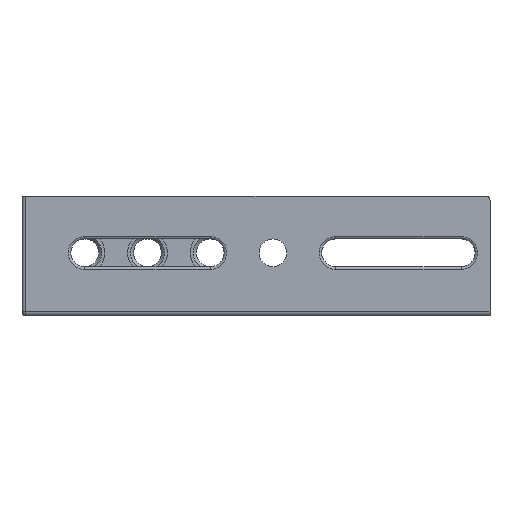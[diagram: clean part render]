
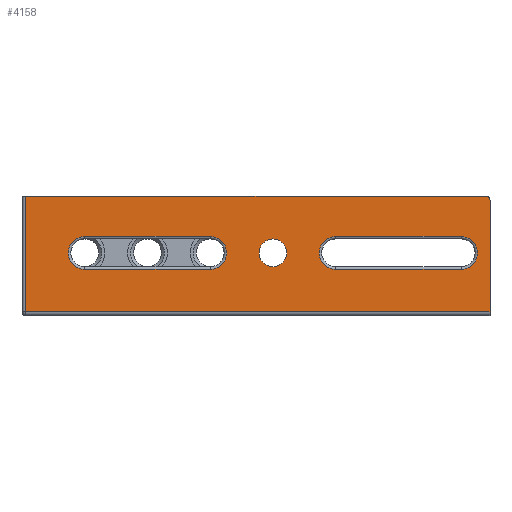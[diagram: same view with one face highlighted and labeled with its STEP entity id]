
A CAD part, front view. The second image highlights one B-rep face of the part: STEP entity #4158.
In plain terms, the highlighted planar face has unit normal (0, -1, 0).
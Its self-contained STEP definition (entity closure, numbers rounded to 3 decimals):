
#172 = CARTESIAN_POINT ( 'NONE',  ( 150., 0., 36.925 ) ) ;
#484 = ORIENTED_EDGE ( 'NONE', *, *, #14863, .F. ) ;
#1697 = EDGE_CURVE ( 'NONE', #34019, #34101, #27652, .T. ) ;
#1947 = DIRECTION ( 'NONE',  ( 0., 0., 1. ) ) ;
#2358 = CARTESIAN_POINT ( 'NONE',  ( 250., 0., 63.075 ) ) ;
#2628 = DIRECTION ( 'NONE',  ( 1., 0., 0. ) ) ;
#2766 = EDGE_CURVE ( 'NONE', #28239, #39608, #25857, .T. ) ;
#3087 = FACE_BOUND ( 'NONE', #32671, .T. ) ;
#3478 = CIRCLE ( 'NONE', #29634, 13.075 ) ;
#3628 = VECTOR ( 'NONE', #16721, 1000. ) ;
#3771 = LINE ( 'NONE', #7646, #41364 ) ;
#3807 = CARTESIAN_POINT ( 'NONE',  ( 50., 0., 36.925 ) ) ;
#4087 = DIRECTION ( 'NONE',  ( -1., 0., 0. ) ) ;
#4158 = ADVANCED_FACE ( 'NONE', ( #34017, #27430, #3087, #10129 ), #9915, .T. ) ;
#4805 = DIRECTION ( 'NONE',  ( 0., 0., 1. ) ) ;
#5215 = VERTEX_POINT ( 'NONE', #14609 ) ;
#5560 = DIRECTION ( 'NONE',  ( 0., -1., 0. ) ) ;
#5613 = CARTESIAN_POINT ( 'NONE',  ( 0., 0., 3. ) ) ;
#6457 = LINE ( 'NONE', #17365, #24985 ) ;
#7090 = EDGE_CURVE ( 'NONE', #5215, #39314, #38074, .T. ) ;
#7293 = AXIS2_PLACEMENT_3D ( 'NONE', #29899, #9633, #1947 ) ;
#7646 = CARTESIAN_POINT ( 'NONE',  ( 250., 0., 63.075 ) ) ;
#9633 = DIRECTION ( 'NONE',  ( 0., -1., 0. ) ) ;
#9775 = DIRECTION ( 'NONE',  ( 0., -1., 0. ) ) ;
#9840 = VERTEX_POINT ( 'NONE', #22751 ) ;
#9915 = PLANE ( 'NONE',  #26684 ) ;
#10129 = FACE_OUTER_BOUND ( 'NONE', #16876, .T. ) ;
#10140 = CARTESIAN_POINT ( 'NONE',  ( 373., 0., 92. ) ) ;
#10672 = CARTESIAN_POINT ( 'NONE',  ( 350., 0., 63.075 ) ) ;
#10962 = VERTEX_POINT ( 'NONE', #10140 ) ;
#11057 = CIRCLE ( 'NONE', #40125, 11.075 ) ;
#11124 = ORIENTED_EDGE ( 'NONE', *, *, #28689, .F. ) ;
#11185 = ORIENTED_EDGE ( 'NONE', *, *, #14229, .F. ) ;
#11362 = EDGE_CURVE ( 'NONE', #39314, #44167, #6457, .T. ) ;
#11737 = DIRECTION ( 'NONE',  ( 1., 0., 0. ) ) ;
#11890 = AXIS2_PLACEMENT_3D ( 'NONE', #36705, #5560, #16003 ) ;
#13086 = EDGE_CURVE ( 'NONE', #34101, #41169, #42877, .T. ) ;
#13460 = AXIS2_PLACEMENT_3D ( 'NONE', #15003, #18868, #42718 ) ;
#13549 = CARTESIAN_POINT ( 'NONE',  ( 3., 0., 95. ) ) ;
#13623 = EDGE_CURVE ( 'NONE', #39644, #5215, #44331, .T. ) ;
#13840 = ORIENTED_EDGE ( 'NONE', *, *, #2766, .F. ) ;
#14229 = EDGE_CURVE ( 'NONE', #31490, #34019, #36759, .T. ) ;
#14609 = CARTESIAN_POINT ( 'NONE',  ( 50., 0., 63.075 ) ) ;
#14647 = EDGE_CURVE ( 'NONE', #39608, #22115, #43576, .T. ) ;
#14779 = CARTESIAN_POINT ( 'NONE',  ( 250., 0., 50. ) ) ;
#14863 = EDGE_CURVE ( 'NONE', #31918, #28239, #3478, .T. ) ;
#14916 = DIRECTION ( 'NONE',  ( 1., 0., 0. ) ) ;
#15003 = CARTESIAN_POINT ( 'NONE',  ( 150., 0., 50. ) ) ;
#15169 = EDGE_CURVE ( 'NONE', #41169, #10962, #33994, .T. ) ;
#15713 = DIRECTION ( 'NONE',  ( -1., 0., 0. ) ) ;
#16003 = DIRECTION ( 'NONE',  ( -1., 0., 0. ) ) ;
#16144 = CARTESIAN_POINT ( 'NONE',  ( 373., 0., 3. ) ) ;
#16376 = ORIENTED_EDGE ( 'NONE', *, *, #20874, .F. ) ;
#16388 = CIRCLE ( 'NONE', #13460, 13.075 ) ;
#16721 = DIRECTION ( 'NONE',  ( -1., 0., 0. ) ) ;
#16876 = EDGE_LOOP ( 'NONE', ( #11185, #11124, #29510, #18590, #41620 ) ) ;
#17032 = DIRECTION ( 'NONE',  ( 0., 0., 1. ) ) ;
#17137 = AXIS2_PLACEMENT_3D ( 'NONE', #22545, #43425, #4805 ) ;
#17233 = EDGE_CURVE ( 'NONE', #22115, #31918, #3771, .T. ) ;
#17365 = CARTESIAN_POINT ( 'NONE',  ( 150., 0., 36.925 ) ) ;
#18590 = ORIENTED_EDGE ( 'NONE', *, *, #13086, .F. ) ;
#18868 = DIRECTION ( 'NONE',  ( 0., -1., 0. ) ) ;
#19215 = ORIENTED_EDGE ( 'NONE', *, *, #17233, .F. ) ;
#19311 = ORIENTED_EDGE ( 'NONE', *, *, #13623, .F. ) ;
#20671 = DIRECTION ( 'NONE',  ( 0., 1., 0. ) ) ;
#20849 = DIRECTION ( 'NONE',  ( 0., 0., -1. ) ) ;
#20874 = EDGE_CURVE ( 'NONE', #33862, #9840, #11057, .T. ) ;
#21064 = DIRECTION ( 'NONE',  ( -1., 0., 0. ) ) ;
#22115 = VERTEX_POINT ( 'NONE', #10672 ) ;
#22545 = CARTESIAN_POINT ( 'NONE',  ( 50., 0., 50. ) ) ;
#22751 = CARTESIAN_POINT ( 'NONE',  ( 188.925, 0., 50. ) ) ;
#22902 = ORIENTED_EDGE ( 'NONE', *, *, #39136, .F. ) ;
#22982 = CARTESIAN_POINT ( 'NONE',  ( 370., 0., 95. ) ) ;
#23371 = VECTOR ( 'NONE', #14916, 1000. ) ;
#23643 = CARTESIAN_POINT ( 'NONE',  ( 370., 0., 92. ) ) ;
#24006 = DIRECTION ( 'NONE',  ( 0., -1., 0. ) ) ;
#24236 = DIRECTION ( 'NONE',  ( 0., 0., 1. ) ) ;
#24255 = LINE ( 'NONE', #38104, #37993 ) ;
#24985 = VECTOR ( 'NONE', #2628, 1000. ) ;
#25066 = ORIENTED_EDGE ( 'NONE', *, *, #11362, .F. ) ;
#25857 = LINE ( 'NONE', #39010, #23371 ) ;
#26612 = VECTOR ( 'NONE', #4087, 1000. ) ;
#26684 = AXIS2_PLACEMENT_3D ( 'NONE', #41489, #24006, #24236 ) ;
#27430 = FACE_BOUND ( 'NONE', #39987, .T. ) ;
#27652 = LINE ( 'NONE', #13549, #32762 ) ;
#28239 = VERTEX_POINT ( 'NONE', #37756 ) ;
#28689 = EDGE_CURVE ( 'NONE', #10962, #31490, #24255, .T. ) ;
#28829 = ORIENTED_EDGE ( 'NONE', *, *, #7090, .F. ) ;
#29510 = ORIENTED_EDGE ( 'NONE', *, *, #15169, .F. ) ;
#29634 = AXIS2_PLACEMENT_3D ( 'NONE', #14779, #31001, #32747 ) ;
#29899 = CARTESIAN_POINT ( 'NONE',  ( 350., 0., 50. ) ) ;
#30394 = AXIS2_PLACEMENT_3D ( 'NONE', #23643, #20671, #17032 ) ;
#31001 = DIRECTION ( 'NONE',  ( 0., -1., 0. ) ) ;
#31490 = VERTEX_POINT ( 'NONE', #16144 ) ;
#31918 = VERTEX_POINT ( 'NONE', #2358 ) ;
#32469 = VECTOR ( 'NONE', #11737, 1000. ) ;
#32671 = EDGE_LOOP ( 'NONE', ( #41311, #16376 ) ) ;
#32747 = DIRECTION ( 'NONE',  ( 0., 0., 1. ) ) ;
#32762 = VECTOR ( 'NONE', #41499, 1000. ) ;
#33426 = CARTESIAN_POINT ( 'NONE',  ( 3., 0., 95. ) ) ;
#33862 = VERTEX_POINT ( 'NONE', #41617 ) ;
#33994 = CIRCLE ( 'NONE', #30394, 3. ) ;
#34017 = FACE_BOUND ( 'NONE', #42045, .T. ) ;
#34019 = VERTEX_POINT ( 'NONE', #42524 ) ;
#34101 = VERTEX_POINT ( 'NONE', #33426 ) ;
#35080 = CARTESIAN_POINT ( 'NONE',  ( 350., 0., 36.925 ) ) ;
#35402 = CARTESIAN_POINT ( 'NONE',  ( 0., 0., 95. ) ) ;
#35850 = ORIENTED_EDGE ( 'NONE', *, *, #14647, .F. ) ;
#36705 = CARTESIAN_POINT ( 'NONE',  ( 200., 0., 50. ) ) ;
#36759 = LINE ( 'NONE', #5613, #3628 ) ;
#37756 = CARTESIAN_POINT ( 'NONE',  ( 250., 0., 36.925 ) ) ;
#37993 = VECTOR ( 'NONE', #20849, 1000. ) ;
#38074 = CIRCLE ( 'NONE', #17137, 13.075 ) ;
#38104 = CARTESIAN_POINT ( 'NONE',  ( 373., 0., 95. ) ) ;
#38467 = CARTESIAN_POINT ( 'NONE',  ( 150., 0., 63.075 ) ) ;
#39010 = CARTESIAN_POINT ( 'NONE',  ( 350., 0., 36.925 ) ) ;
#39136 = EDGE_CURVE ( 'NONE', #44167, #39644, #16388, .T. ) ;
#39314 = VERTEX_POINT ( 'NONE', #3807 ) ;
#39608 = VERTEX_POINT ( 'NONE', #35080 ) ;
#39644 = VERTEX_POINT ( 'NONE', #38467 ) ;
#39987 = EDGE_LOOP ( 'NONE', ( #19215, #35850, #13840, #484 ) ) ;
#40125 = AXIS2_PLACEMENT_3D ( 'NONE', #44307, #9775, #15713 ) ;
#40206 = CIRCLE ( 'NONE', #11890, 11.075 ) ;
#41169 = VERTEX_POINT ( 'NONE', #22982 ) ;
#41311 = ORIENTED_EDGE ( 'NONE', *, *, #43121, .F. ) ;
#41364 = VECTOR ( 'NONE', #21064, 1000. ) ;
#41489 = CARTESIAN_POINT ( 'NONE',  ( 0., 0., 95. ) ) ;
#41499 = DIRECTION ( 'NONE',  ( 0., 0., 1. ) ) ;
#41599 = CARTESIAN_POINT ( 'NONE',  ( 50., 0., 63.075 ) ) ;
#41617 = CARTESIAN_POINT ( 'NONE',  ( 211.075, 0., 50. ) ) ;
#41620 = ORIENTED_EDGE ( 'NONE', *, *, #1697, .F. ) ;
#42045 = EDGE_LOOP ( 'NONE', ( #19311, #22902, #25066, #28829 ) ) ;
#42524 = CARTESIAN_POINT ( 'NONE',  ( 3., 0., 3. ) ) ;
#42718 = DIRECTION ( 'NONE',  ( 0., 0., 1. ) ) ;
#42877 = LINE ( 'NONE', #35402, #32469 ) ;
#43121 = EDGE_CURVE ( 'NONE', #9840, #33862, #40206, .T. ) ;
#43425 = DIRECTION ( 'NONE',  ( 0., -1., 0. ) ) ;
#43576 = CIRCLE ( 'NONE', #7293, 13.075 ) ;
#44167 = VERTEX_POINT ( 'NONE', #172 ) ;
#44307 = CARTESIAN_POINT ( 'NONE',  ( 200., 0., 50. ) ) ;
#44331 = LINE ( 'NONE', #41599, #26612 ) ;
